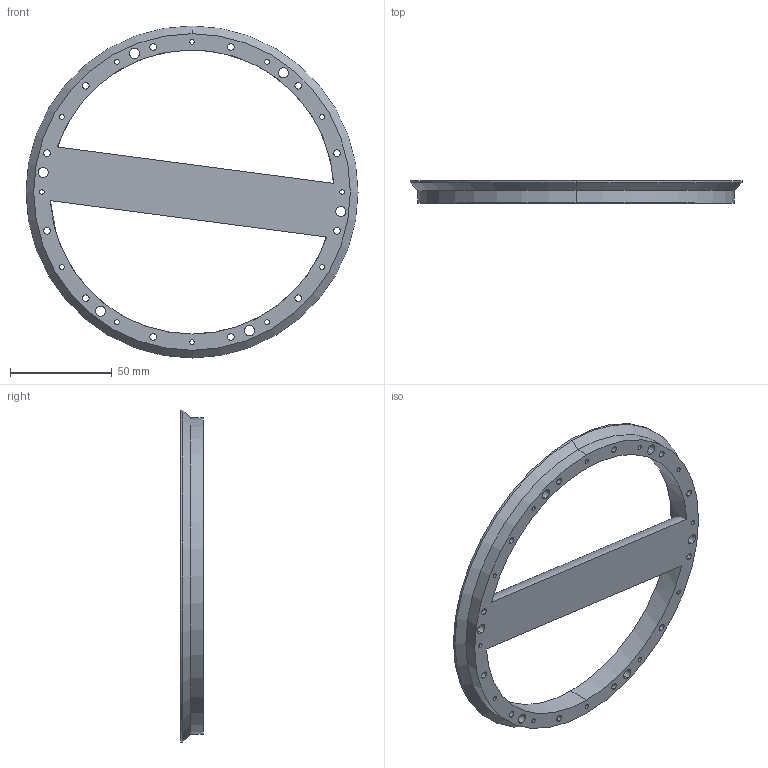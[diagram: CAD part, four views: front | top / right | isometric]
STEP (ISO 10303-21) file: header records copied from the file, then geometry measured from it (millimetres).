
FILE_DESCRIPTION (( 'STEP AP203' ), '1' );
FILE_NAME ('reel-bearing-inner.STEP', '2024-11-26T16:26:40', ( '' ), ( '' ), 'SwSTEP 2.0', 'SolidWorks 2022', '' );
FILE_SCHEMA (( 'CONFIG_CONTROL_DESIGN' ));
Length unit declared in the file: millimetre
Products named in the file (1): reel-bearing-inner
Bounding box: 163.4 x 11 x 163.4 mm (x, y, z)
Volume: 78882.6 mm3; surface area: 32054.5 mm2
Topology: 1 solids, 1 shells, 73 faces, 209 edges, 138 vertices
Faces by surface type: cylinder 69, cone 2, plane 2
Entity records: 2722 total; most frequent: DIRECTION 487, CARTESIAN_POINT 481, ORIENTED_EDGE 418, EDGE_CURVE 209, AXIS2_PLACEMENT_3D 208, VERTEX_POINT 138, EDGE_LOOP 137, CIRCLE 134
